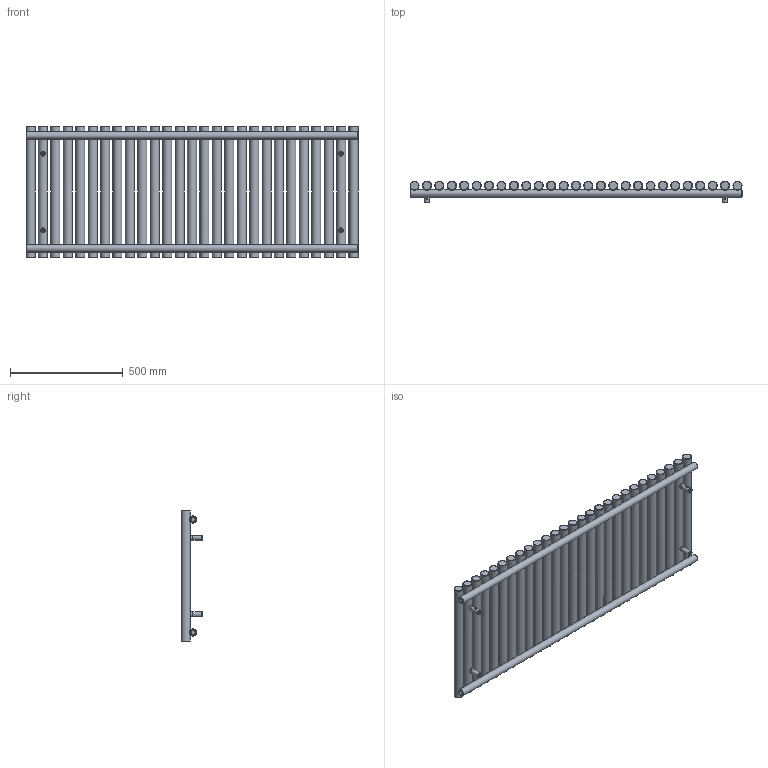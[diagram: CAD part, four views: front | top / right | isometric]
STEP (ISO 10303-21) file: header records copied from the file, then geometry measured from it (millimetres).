
FILE_DESCRIPTION(/* description */ (''),/* implementation_level */ '2;1');
FILE_NAME(/* name */ 'Z:\R\G\P\RGP116 - Grzejniki Geyser\Work\Inventor\Circolo (Rolo V, Rolo H)\ROLO-ROOM\Marketing\Zaokrąglone\WGROR058147-LP-CK-(Z).stp',/* time_stamp */ '2024-01-19T12:29:23+01:00',/* author */ ('NowAd'),/* organization */ (''),/* preprocessor_version */ 'ST-DEVELOPER v17.2',/* originating_system */ 'Autodesk Inventor 2019',/* authorisation */ '');
FILE_SCHEMA (('AUTOMOTIVE_DESIGN { 1 0 10303 214 3 1 1 }'));
Length unit declared in the file: millimetre
Products named in the file (3): WGROR058147-LP-CK-(Z); PGROR058147-LP-CK-(Z); CK-V-fi40 marketing
Assembly tree (5 placements, depth 2):
  WGROR058147-LP-CK-(Z)
    PGROR058147-LP-CK-(Z)
    CK-V-fi40 marketing  x4
Bounding box: 1470 x 96.5 x 580 mm (x, y, z)
Volume: 22068048 mm3; surface area: 2328966.8 mm2
Topology: 5 solids, 5 shells, 475 faces, 1139 edges, 762 vertices
Faces by surface type: plane 178, cylinder 97, torus 86, cone 60, bspline 54
Full cylindrical faces by diameter (mm): 4.134 x4, 4.48 x4, 6.4 x4, 10 x4, 12 x4, 15.834 x4, 16 x4, 18.631 x4, 22 x4, 32 x2, 40 x27
Entity records: 18328 total; most frequent: CARTESIAN_POINT 11618, DIRECTION 1384, ORIENTED_EDGE 1316, EDGE_CURVE 658, AXIS2_PLACEMENT_3D 643, VERTEX_POINT 444, EDGE_LOOP 420, CIRCLE 389
